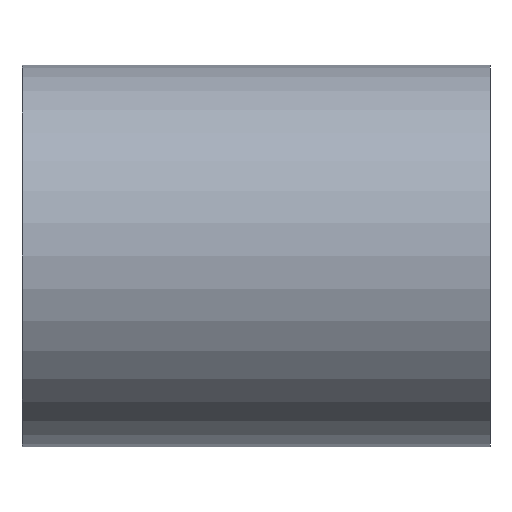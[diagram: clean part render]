
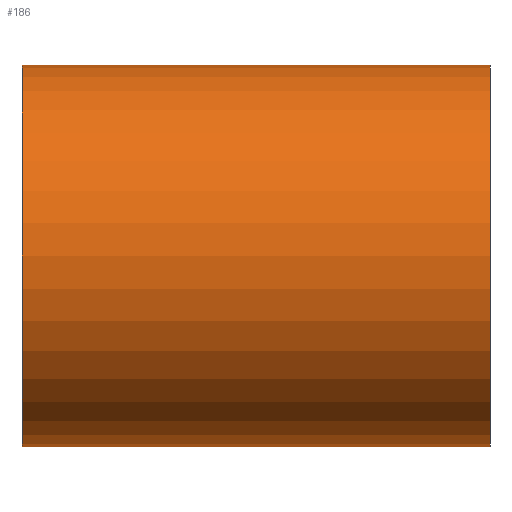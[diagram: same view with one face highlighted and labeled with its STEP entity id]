
A CAD part, front view. The second image highlights one B-rep face of the part: STEP entity #186.
In plain terms, the highlighted cylindrical face has radius 550 mm (diameter 1100 mm), a partial arc.
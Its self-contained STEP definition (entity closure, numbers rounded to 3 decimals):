
#186=ADVANCED_FACE('',(#374),#375,.T.);
#374=FACE_OUTER_BOUND('',#589,.T.);
#375=CYLINDRICAL_SURFACE('',#590,550.0);
#589=EDGE_LOOP('',(#1079,#1080,#1081,#1082));
#590=AXIS2_PLACEMENT_3D('',#1083,#1084,#1085);
#1079=ORIENTED_EDGE('',*,*,#1167,.T.);
#1080=ORIENTED_EDGE('',*,*,#1373,.F.);
#1081=ORIENTED_EDGE('',*,*,#1169,.T.);
#1082=ORIENTED_EDGE('',*,*,#1374,.F.);
#1083=CARTESIAN_POINT('',(0.0,0.0,0.0));
#1084=DIRECTION('',(1.0,0.0,0.0));
#1085=DIRECTION('',(0.0,0.0,-1.0));
#1167=EDGE_CURVE('',#1378,#1379,#1380,.T.);
#1169=EDGE_CURVE('',#1383,#1381,#1384,.T.);
#1373=EDGE_CURVE('',#1383,#1379,#1687,.T.);
#1374=EDGE_CURVE('',#1378,#1381,#1688,.T.);
#1378=VERTEX_POINT('',#1692);
#1379=VERTEX_POINT('',#1693);
#1380=LINE('',#1694,#1695);
#1381=VERTEX_POINT('',#1696);
#1383=VERTEX_POINT('',#1698);
#1384=LINE('',#1699,#1700);
#1687=CIRCLE('',#2063,550.0);
#1688=CIRCLE('',#2064,550.0);
#1692=CARTESIAN_POINT('',(-675.0,0.0,-550.0));
#1693=CARTESIAN_POINT('',(675.0,0.0,-550.0));
#1694=CARTESIAN_POINT('',(0.0,0.,-550.0));
#1695=VECTOR('',#2067,1.0);
#1696=CARTESIAN_POINT('',(-675.0,0.,550.0));
#1698=CARTESIAN_POINT('',(675.0,0.,550.0));
#1699=CARTESIAN_POINT('',(0.0,0.,550.0));
#1700=VECTOR('',#2071,1.0);
#2063=AXIS2_PLACEMENT_3D('',#2402,#2403,#2404);
#2064=AXIS2_PLACEMENT_3D('',#2405,#2406,#2407);
#2067=DIRECTION('',(1.0,0.0,0.0));
#2071=DIRECTION('',(-1.0,-0.0,-0.0));
#2402=CARTESIAN_POINT('',(675.0,0.0,0.0));
#2403=DIRECTION('',(1.0,0.0,0.0));
#2404=DIRECTION('',(0.0,0.0,-1.0));
#2405=CARTESIAN_POINT('',(-675.0,0.0,0.0));
#2406=DIRECTION('',(-1.0,0.0,0.0));
#2407=DIRECTION('',(0.0,0.0,-1.0));
